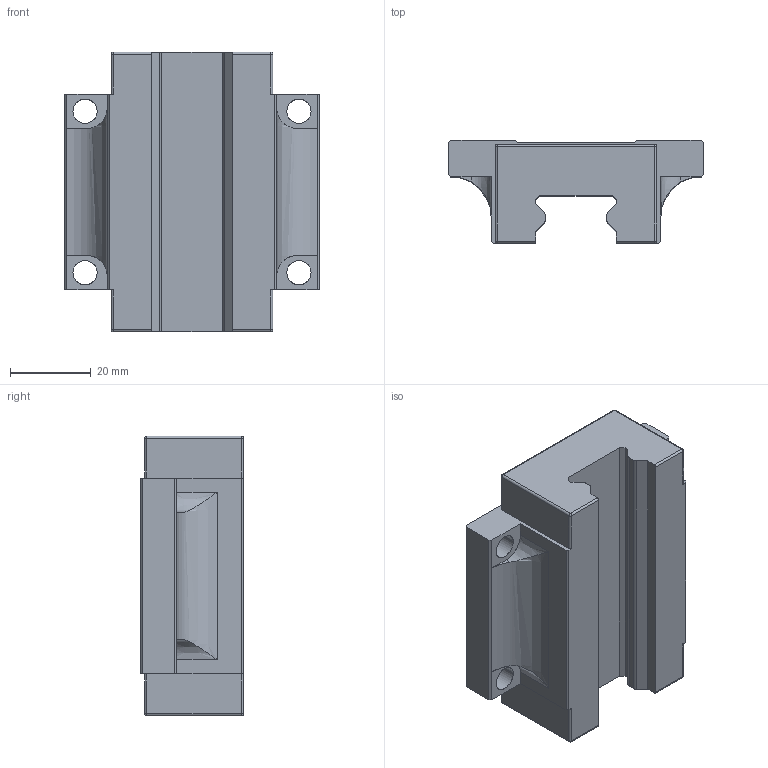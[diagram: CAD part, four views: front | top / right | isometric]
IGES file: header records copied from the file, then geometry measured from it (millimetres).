
Start section: SolidWorks IGES file using analytic representation for surfaces
Global section: file name: C:\Users\IanO\Desktop\Temp File\GENERAL\L1016_v2\L1016.F-BC_v2\L1016.F-BC_v2_20190612_IGES\L1016.F20-BC.igs; native system: SolidWorks 2017; preprocessor: SolidWorks 2017; author: IanO; date: 190613.152141; units: millimetre
Bounding box: 63 x 25.5 x 69.3 mm (x, y, z)
Surface area: 15219 mm2 (no closed solid volume)
Topology: 0 solids, 0 shells, 92 faces, 888 edges, 880 vertices
Faces by surface type: bspline 48, revolution 44
